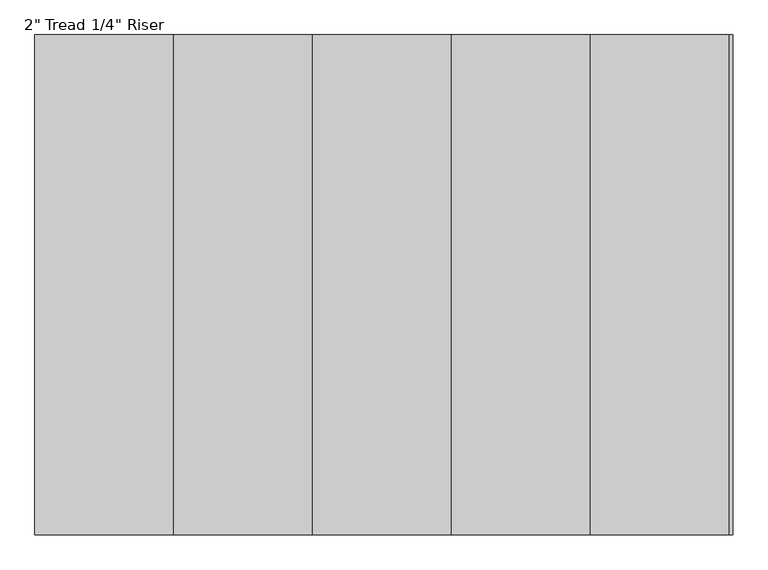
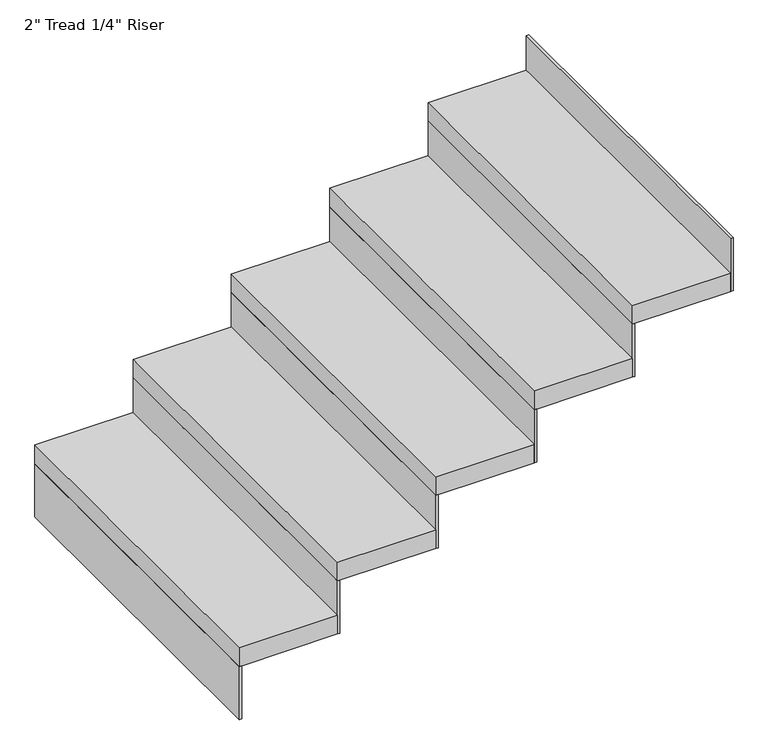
"""IFC4 building model written with IfcOpenShell, lengths in millimetres: stair flight geometry."""

from ifc_helpers import new_model, si_unit, frame, origin, place, context, project, spatial, polyline, outline, extrude, source, transform, mapped, element, save


def stair_flight_253f1085(model_context):
    return source(origin(), model_context, "Body", "SweptSolid", [
        extrude(outline(polyline([(34301.5548668, 21385.3361774), (34295.2048668, 21385.3361774), (34295.2048668, 22299.7361774), (34301.5548668, 22299.7361774), (34301.5548668, 21385.3361774)])), frame((0.0, 0.0, 2126.3428571), z_axis=(0.0, 0.0, 1.0), x_axis=(1.0, 0.0, 0.0)), (0.0, 0.0, 1.0), 145.1428571),
        extrude(outline(polyline([(34549.2048668, 22299.7361774), (34549.2048668, 21385.3361774), (34295.2048668, 21385.3361774), (34295.2048668, 22299.7361774), (34549.2048668, 22299.7361774)])), frame((0.0, 0.0, 2271.4857143), z_axis=(0.0, 0.0, 1.0), x_axis=(1.0, 0.0, 0.0)), (0.0, 0.0, 1.0), 50.8),
        extrude(outline(polyline([(34555.5548668, 21385.3361774), (34549.2048668, 21385.3361774), (34549.2048668, 22299.7361774), (34555.5548668, 22299.7361774), (34555.5548668, 21385.3361774)])), frame((0.0, 0.0, 2271.4857143), z_axis=(0.0, 0.0, 1.0), x_axis=(1.0, 0.0, 0.0)), (0.0, 0.0, 1.0), 145.1428571),
        extrude(outline(polyline([(34803.2048668, 22299.7361774), (34803.2048668, 21385.3361774), (34549.2048668, 21385.3361774), (34549.2048668, 22299.7361774), (34803.2048668, 22299.7361774)])), frame((0.0, 0.0, 2416.6285714), z_axis=(0.0, 0.0, 1.0), x_axis=(1.0, 0.0, 0.0)), (0.0, 0.0, 1.0), 50.8),
        extrude(outline(polyline([(34809.5548668, 21385.3361774), (34803.2048668, 21385.3361774), (34803.2048668, 22299.7361774), (34809.5548668, 22299.7361774), (34809.5548668, 21385.3361774)])), frame((0.0, 0.0, 2416.6285714), z_axis=(0.0, 0.0, 1.0), x_axis=(1.0, 0.0, 0.0)), (0.0, 0.0, 1.0), 145.1428571),
        extrude(outline(polyline([(35057.2048668, 22299.7361774), (35057.2048668, 21385.3361774), (34803.2048668, 21385.3361774), (34803.2048668, 22299.7361774), (35057.2048668, 22299.7361774)])), frame((0.0, 0.0, 2561.7714286), z_axis=(0.0, 0.0, 1.0), x_axis=(1.0, 0.0, 0.0)), (0.0, 0.0, 1.0), 50.8),
        extrude(outline(polyline([(35063.5548668, 21385.3361774), (35057.2048668, 21385.3361774), (35057.2048668, 22299.7361774), (35063.5548668, 22299.7361774), (35063.5548668, 21385.3361774)])), frame((0.0, 0.0, 2561.7714286), z_axis=(0.0, 0.0, 1.0), x_axis=(1.0, 0.0, 0.0)), (0.0, 0.0, 1.0), 145.1428571),
        extrude(outline(polyline([(35311.2048668, 22299.7361774), (35311.2048668, 21385.3361774), (35057.2048668, 21385.3361774), (35057.2048668, 22299.7361774), (35311.2048668, 22299.7361774)])), frame((0.0, 0.0, 2706.9142857), z_axis=(0.0, 0.0, 1.0), x_axis=(1.0, 0.0, 0.0)), (0.0, 0.0, 1.0), 50.8),
        extrude(outline(polyline([(35317.5548668, 21385.3361774), (35311.2048668, 21385.3361774), (35311.2048668, 22299.7361774), (35317.5548668, 22299.7361774), (35317.5548668, 21385.3361774)])), frame((0.0, 0.0, 2706.9142857), z_axis=(0.0, 0.0, 1.0), x_axis=(1.0, 0.0, 0.0)), (0.0, 0.0, 1.0), 145.1428571),
        extrude(outline(polyline([(35571.5548668, 21385.3361774), (35565.2048668, 21385.3361774), (35565.2048668, 22299.7361774), (35571.5548668, 22299.7361774), (35571.5548668, 21385.3361774)])), frame((0.0, 0.0, 2852.0571429), z_axis=(0.0, 0.0, 1.0), x_axis=(1.0, 0.0, 0.0)), (0.0, 0.0, 1.0), 145.1428571),
        extrude(outline(polyline([(35565.2048668, 22299.7361774), (35565.2048668, 21385.3361774), (35311.2048668, 21385.3361774), (35311.2048668, 22299.7361774), (35565.2048668, 22299.7361774)])), frame((0.0, 0.0, 2852.0571429), z_axis=(0.0, 0.0, 1.0), x_axis=(1.0, 0.0, 0.0)), (0.0, 0.0, 1.0), 50.8),
    ])


if __name__ == "__main__":
    model = new_model("IFC4")
    model_context = context("Model", 3, world=origin())
    ifc_project = project(units=[si_unit("LENGTHUNIT", "METRE", prefix="MILLI")], contexts=[model_context])
    site = spatial("IfcSite", under=ifc_project)
    building = spatial("IfcBuilding", under=site)
    placement = place(None, origin())
    stair_flight_shape = stair_flight_253f1085(model_context)
    element("IfcStairFlight", 1, ObjectType="2\" Tread 1/4\" Riser", at=placement, inside=building, context=model_context, shape_type="MappedRepresentation", body=[
        mapped(stair_flight_shape, transform((0.0, 0.0, 0.0), x_axis=(1.0, 0.0, 0.0), y_axis=(0.0, 1.0, 0.0), z_axis=(0.0, 0.0, 1.0))),
    ])
    save(model, "model.ifc")
